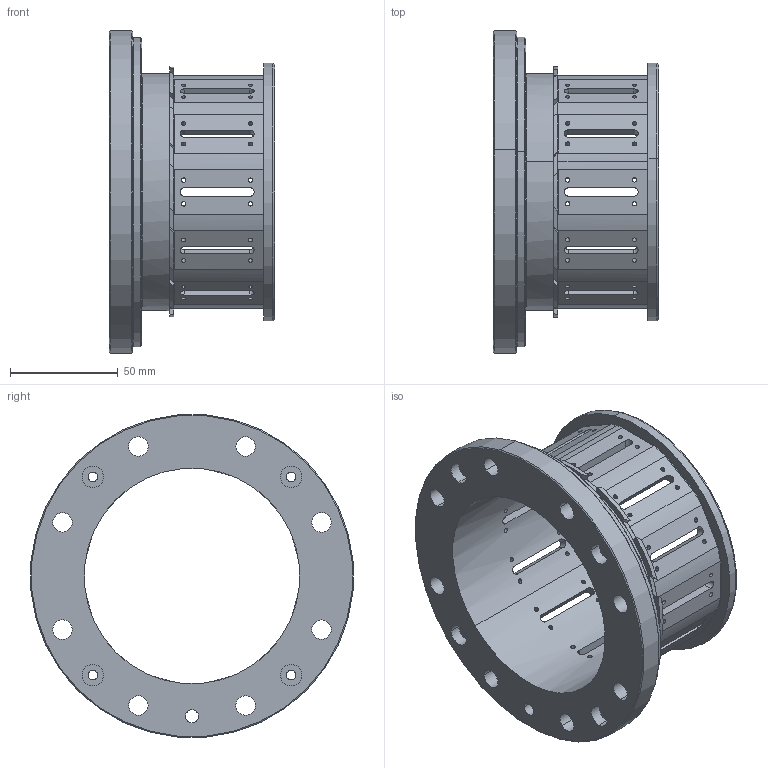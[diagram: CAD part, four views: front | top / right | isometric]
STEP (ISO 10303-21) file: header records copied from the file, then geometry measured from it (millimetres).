
FILE_DESCRIPTION(('CATIA V5 STEP Exchange','CAx-IF Rec.Pracs.--- Model Styling and Organization---1.5--- 2016-08-15','CAx-IF Rec.Pracs.---Supplemental Geometry---1.0---2011-11-01','CAx-IF Rec.Pracs.--- Composite Materials ---1.1---2010-07-15'),'2;1');
FILE_NAME('W:\8-25-003 RENOVATION DEBITMETRE PHI100 A S3\CATIA\Etude\S3MA-8-25003-1003--_SUPPORT_PEIGNES.stp','2026-02-06T09:01:14+00:00',('none'),('none'),'CATIA Version 5-6 Release 2020 SP6 HF13','CATIA V5 STEP AP214 v2','none');
FILE_SCHEMA(('AUTOMOTIVE_DESIGN { 1 0 10303 214 1 1 1 1 }'));
Length unit declared in the file: millimetre
Products named in the file (1): S3MA-8-25003-1003--_SUPPORT_PEIGNES
Bounding box: 76.75 x 149.43 x 149.43 mm (x, y, z)
Volume: 226834.5 mm3; surface area: 83242.5 mm2
Topology: 1 solids, 1 shells, 369 faces, 1108 edges, 750 vertices
Faces by surface type: cylinder 213, plane 107, torus 37, cone 12
Entity records: 13622 total; most frequent: CARTESIAN_POINT 4002, ORIENTED_EDGE 2216, DIRECTION 1386, EDGE_CURVE 1108, VERTEX_POINT 750, AXIS2_PLACEMENT_3D 699, EDGE_LOOP 526, CIRCLE 451
